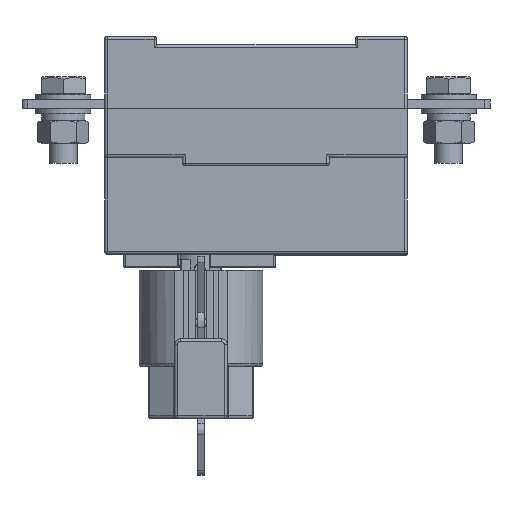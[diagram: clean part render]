
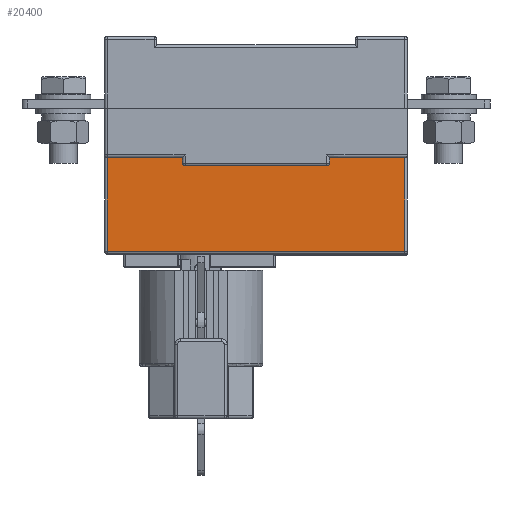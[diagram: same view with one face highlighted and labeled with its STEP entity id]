
A CAD part, front view. The second image highlights one B-rep face of the part: STEP entity #20400.
In plain terms, the highlighted planar face has unit normal (0, -1, 0).
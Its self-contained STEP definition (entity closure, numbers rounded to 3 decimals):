
#18816=DIRECTION('',(0.,0.,1.));
#18817=VECTOR('',#18816,34.);
#18818=CARTESIAN_POINT('',(54.,77.5,-63.5));
#18819=LINE('',#18818,#18817);
#18820=DIRECTION('',(1.,0.,0.));
#18821=VECTOR('',#18820,108.);
#18822=CARTESIAN_POINT('',(-54.,77.5,-63.5));
#18823=LINE('',#18822,#18821);
#18824=DIRECTION('',(0.,0.,-1.));
#18825=VECTOR('',#18824,34.);
#18826=CARTESIAN_POINT('',(-54.,77.5,-29.5));
#18827=LINE('',#18826,#18825);
#18828=DIRECTION('',(1.,0.,0.));
#18829=VECTOR('',#18828,108.);
#18830=CARTESIAN_POINT('',(-54.,77.5,-29.5));
#18831=LINE('',#18830,#18829);
#20287=CARTESIAN_POINT('',(54.,77.5,-29.5));
#20289=VERTEX_POINT('',#20287);
#20293=CARTESIAN_POINT('',(54.,77.5,-63.5));
#20294=VERTEX_POINT('',#20293);
#20296=CARTESIAN_POINT('',(-54.,77.5,-29.5));
#20298=VERTEX_POINT('',#20296);
#20299=CARTESIAN_POINT('',(-54.,77.5,-63.5));
#20300=VERTEX_POINT('',#20299);
#20385=CARTESIAN_POINT('',(0.,77.5,-47.));
#20386=DIRECTION('',(0.,1.,0.));
#20387=DIRECTION('',(1.,0.,0.));
#20388=AXIS2_PLACEMENT_3D('',#20385,#20386,#20387);
#20389=PLANE('',#20388);
#20391=ORIENTED_EDGE('',*,*,#20390,.F.);
#20393=ORIENTED_EDGE('',*,*,#20392,.F.);
#20395=ORIENTED_EDGE('',*,*,#20394,.F.);
#20397=ORIENTED_EDGE('',*,*,#20396,.T.);
#20398=EDGE_LOOP('',(#20391,#20393,#20395,#20397));
#20399=FACE_OUTER_BOUND('',#20398,.F.);
#20400=ADVANCED_FACE('',(#20399),#20389,.F.);
#20390=EDGE_CURVE('',#20294,#20289,#18819,.T.);
#20392=EDGE_CURVE('',#20300,#20294,#18823,.T.);
#20394=EDGE_CURVE('',#20298,#20300,#18827,.T.);
#20396=EDGE_CURVE('',#20298,#20289,#18831,.T.);
